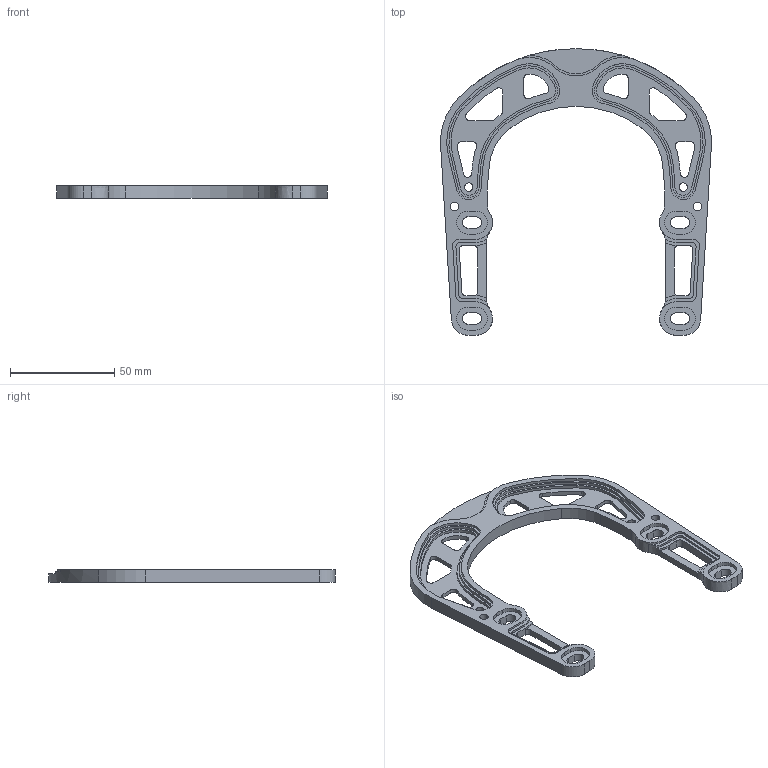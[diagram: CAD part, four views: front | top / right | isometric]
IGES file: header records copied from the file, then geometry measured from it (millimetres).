
Start section: IGES file generated from Kompas f.0 for Windows drawing by the IGES translator from Ascon Ltd., translator version IGESOUT-5.1.
Global section: file name: C:\Users\Urasik\Desktop\Verzin\Áóñòåð 4á Verzin\Áóñòåð 4á SL.igs; native system: Kompas( 32 bit ) for Windows; preprocessor: 1.0; author: unknown; organization: ASCON; date: -17861001:115649; units: millimetre
Bounding box: 129.76 x 137.29 x 6 mm (x, y, z)
Volume: 25180.3 mm3; surface area: 19130.9 mm2
Topology: 1 solids, 1 shells, 235 faces, 675 edges, 450 vertices
Faces by surface type: revolution 157, bspline 78
